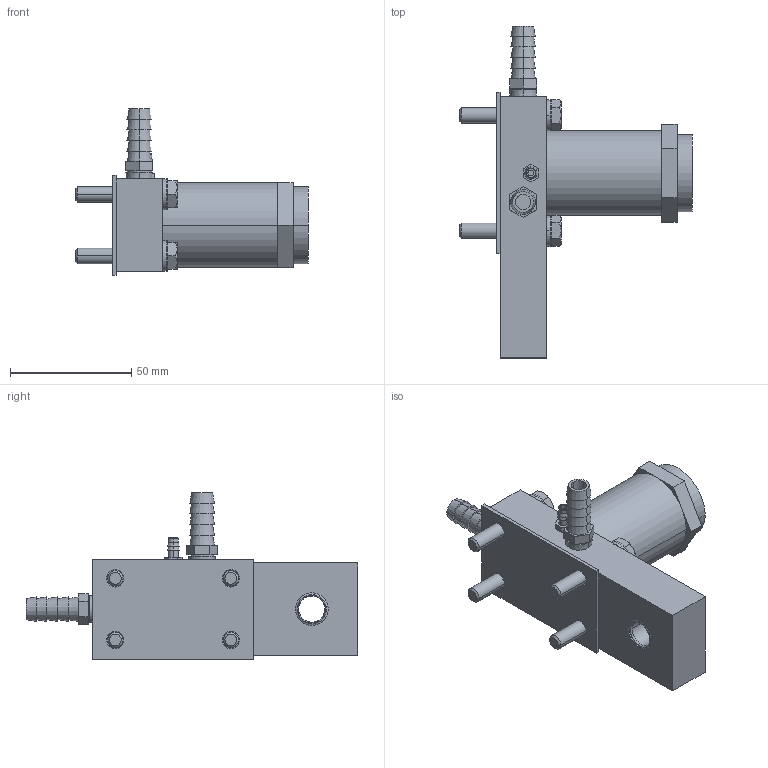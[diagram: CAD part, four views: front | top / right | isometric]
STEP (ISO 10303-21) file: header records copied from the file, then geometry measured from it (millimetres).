
FILE_DESCRIPTION((''),'2;1');
FILE_NAME('UJ3_ASM','2017-08-24T',('jennifer.elliott'),('CenterLine (Windsor) Ltd - Automation Components Division'),'PRO/ENGINEER BY PARAMETRIC TECHNOLOGY CORPORATION, 2015030','PRO/ENGINEER BY PARAMETRIC TECHNOLOGY CORPORATION, 2015030','');
FILE_SCHEMA(('AUTOMOTIVE_DESIGN { 1 0 10303 214 1 1 1 1 }'));
Length unit declared in the file: inch
Products named in the file (22): PRT0338; PRT0339; PRT0340; PRT0341; PRT0342; PRT0343; PRT0344; PRT0345; PRT0346; PRT0347; PRT0348; PRT0349; PRT0350; PRT0351; PRT0352; PRT0353; PRT0354; PRT0355; PRT0356; PRT0357; PRT0358; UJ3_ASM
Assembly tree (21 placements, depth 2):
  UJ3_ASM
    PRT0338
    PRT0339
    PRT0340
    PRT0341
    PRT0342
    PRT0343
    PRT0344
    PRT0345
    PRT0346
    PRT0347
    PRT0348
    PRT0349
    PRT0350
    PRT0351
    PRT0352
    PRT0353
    PRT0354
    PRT0355
    PRT0356
    PRT0357
    PRT0358
Bounding box: 96.08 x 136.91 x 68.64 mm (x, y, z)
Volume: 144330.1 mm3; surface area: 47902.1 mm2
Topology: 21 solids, 21 shells, 283 faces, 606 edges, 390 vertices
Faces by surface type: plane 123, cylinder 88, cone 68, torus 4
Entity records: 9358 total; most frequent: CARTESIAN_POINT 1638, DIRECTION 1492, ORIENTED_EDGE 1212, AXIS2_PLACEMENT_3D 608, EDGE_CURVE 606, VERTEX_POINT 390, EDGE_LOOP 350, FACE_OUTER_BOUND 283
